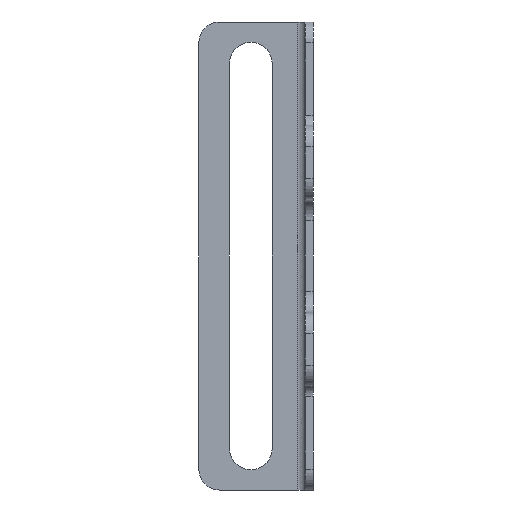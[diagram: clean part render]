
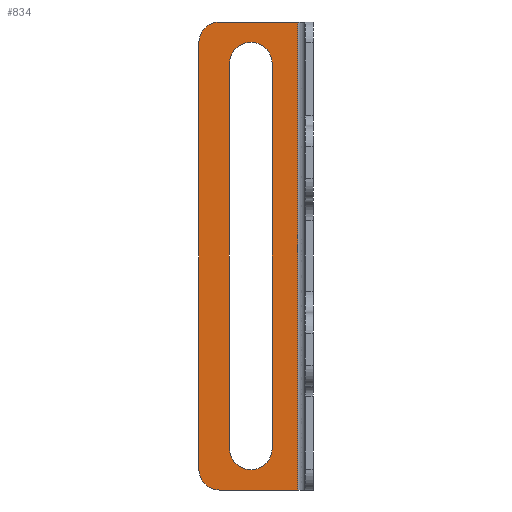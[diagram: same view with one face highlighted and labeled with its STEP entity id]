
A CAD part, left-side view. The second image highlights one B-rep face of the part: STEP entity #834.
In plain terms, the highlighted planar face has unit normal (-1, 0, 0).
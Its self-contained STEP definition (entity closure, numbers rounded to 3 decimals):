
#3 = VECTOR ( 'NONE', #429, 1000. ) ;
#37 = CARTESIAN_POINT ( 'NONE',  ( 23.5, 3., 90. ) ) ;
#42 = EDGE_CURVE ( 'NONE', #853, #917, #870, .T. ) ;
#43 = ORIENTED_EDGE ( 'NONE', *, *, #1225, .F. ) ;
#67 = VERTEX_POINT ( 'NONE', #483 ) ;
#109 = FACE_BOUND ( 'NONE', #596, .T. ) ;
#111 = CARTESIAN_POINT ( 'NONE',  ( 23.5, 12., 3.9 ) ) ;
#122 = DIRECTION ( 'NONE',  ( 1., 0., 0. ) ) ;
#127 = CARTESIAN_POINT ( 'NONE',  ( 23.5, 22., 86. ) ) ;
#130 = DIRECTION ( 'NONE',  ( -1., 0., 0. ) ) ;
#183 = EDGE_CURVE ( 'NONE', #917, #1022, #489, .T. ) ;
#199 = AXIS2_PLACEMENT_3D ( 'NONE', #1042, #411, #1154 ) ;
#232 = CARTESIAN_POINT ( 'NONE',  ( 23.5, 16.1, 82. ) ) ;
#277 = CARTESIAN_POINT ( 'NONE',  ( 23.5, 12., 8. ) ) ;
#280 = DIRECTION ( 'NONE',  ( 0., 0., -1. ) ) ;
#285 = ORIENTED_EDGE ( 'NONE', *, *, #855, .T. ) ;
#294 = ORIENTED_EDGE ( 'NONE', *, *, #671, .F. ) ;
#330 = EDGE_CURVE ( 'NONE', #1195, #853, #578, .T. ) ;
#331 = CARTESIAN_POINT ( 'NONE',  ( 23.5, 12., 8. ) ) ;
#339 = EDGE_CURVE ( 'NONE', #67, #1163, #866, .T. ) ;
#342 = VECTOR ( 'NONE', #1006, 1000. ) ;
#352 = VERTEX_POINT ( 'NONE', #371 ) ;
#360 = DIRECTION ( 'NONE',  ( 0., -1., 0. ) ) ;
#371 = CARTESIAN_POINT ( 'NONE',  ( 23.5, 18., 90. ) ) ;
#376 = DIRECTION ( 'NONE',  ( 0., 0., -1. ) ) ;
#411 = DIRECTION ( 'NONE',  ( -1., 0., 0. ) ) ;
#428 = ORIENTED_EDGE ( 'NONE', *, *, #183, .F. ) ;
#429 = DIRECTION ( 'NONE',  ( 0., 0., -1. ) ) ;
#440 = EDGE_CURVE ( 'NONE', #920, #1167, #447, .T. ) ;
#447 = LINE ( 'NONE', #1128, #1257 ) ;
#462 = VECTOR ( 'NONE', #280, 1000. ) ;
#479 = DIRECTION ( 'NONE',  ( 0., -1., 0. ) ) ;
#483 = CARTESIAN_POINT ( 'NONE',  ( 23.5, 18., 0. ) ) ;
#489 = LINE ( 'NONE', #1336, #462 ) ;
#517 = DIRECTION ( 'NONE',  ( -1., 0., 0. ) ) ;
#546 = ORIENTED_EDGE ( 'NONE', *, *, #440, .T. ) ;
#576 = CARTESIAN_POINT ( 'NONE',  ( 23.5, 7.9, 8. ) ) ;
#578 = LINE ( 'NONE', #576, #342 ) ;
#591 = LINE ( 'NONE', #37, #624 ) ;
#596 = EDGE_LOOP ( 'NONE', ( #428, #842, #874, #294, #43 ) ) ;
#600 = VERTEX_POINT ( 'NONE', #943 ) ;
#606 = AXIS2_PLACEMENT_3D ( 'NONE', #331, #1062, #1170 ) ;
#624 = VECTOR ( 'NONE', #360, 1000. ) ;
#628 = ORIENTED_EDGE ( 'NONE', *, *, #821, .F. ) ;
#661 = AXIS2_PLACEMENT_3D ( 'NONE', #754, #130, #868 ) ;
#671 = EDGE_CURVE ( 'NONE', #775, #1195, #1068, .T. ) ;
#674 = CARTESIAN_POINT ( 'NONE',  ( 23.5, 22., 4. ) ) ;
#678 = CARTESIAN_POINT ( 'NONE',  ( 23.5, 7.9, 8. ) ) ;
#724 = AXIS2_PLACEMENT_3D ( 'NONE', #1283, #122, #862 ) ;
#741 = CARTESIAN_POINT ( 'NONE',  ( 23.5, 3., 90. ) ) ;
#744 = PLANE ( 'NONE',  #724 ) ;
#754 = CARTESIAN_POINT ( 'NONE',  ( 23.5, 18., 86. ) ) ;
#775 = VERTEX_POINT ( 'NONE', #111 ) ;
#777 = CIRCLE ( 'NONE', #661, 4. ) ;
#809 = FACE_OUTER_BOUND ( 'NONE', #844, .T. ) ;
#821 = EDGE_CURVE ( 'NONE', #600, #1163, #1130, .T. ) ;
#834 = ADVANCED_FACE ( 'NONE', ( #109, #809 ), #744, .F. ) ;
#842 = ORIENTED_EDGE ( 'NONE', *, *, #42, .F. ) ;
#844 = EDGE_LOOP ( 'NONE', ( #1241, #285, #546, #1120, #900, #628 ) ) ;
#851 = AXIS2_PLACEMENT_3D ( 'NONE', #277, #1009, #376 ) ;
#853 = VERTEX_POINT ( 'NONE', #969 ) ;
#855 = EDGE_CURVE ( 'NONE', #352, #920, #777, .T. ) ;
#862 = DIRECTION ( 'NONE',  ( 0., 0., -1. ) ) ;
#866 = LINE ( 'NONE', #999, #899 ) ;
#868 = DIRECTION ( 'NONE',  ( 0., 0., -1. ) ) ;
#870 = CIRCLE ( 'NONE', #1231, 4.1 ) ;
#874 = ORIENTED_EDGE ( 'NONE', *, *, #330, .F. ) ;
#899 = VECTOR ( 'NONE', #479, 1000. ) ;
#900 = ORIENTED_EDGE ( 'NONE', *, *, #339, .T. ) ;
#917 = VERTEX_POINT ( 'NONE', #232 ) ;
#920 = VERTEX_POINT ( 'NONE', #127 ) ;
#943 = CARTESIAN_POINT ( 'NONE',  ( 23.5, 3., 90. ) ) ;
#969 = CARTESIAN_POINT ( 'NONE',  ( 23.5, 7.9, 82. ) ) ;
#986 = CARTESIAN_POINT ( 'NONE',  ( 23.5, 16.1, 8. ) ) ;
#999 = CARTESIAN_POINT ( 'NONE',  ( 23.5, 3., 0. ) ) ;
#1006 = DIRECTION ( 'NONE',  ( 0., 0., 1. ) ) ;
#1009 = DIRECTION ( 'NONE',  ( -1., 0., 0. ) ) ;
#1022 = VERTEX_POINT ( 'NONE', #986 ) ;
#1023 = DIRECTION ( 'NONE',  ( 0., 0., -1. ) ) ;
#1027 = EDGE_CURVE ( 'NONE', #352, #600, #591, .T. ) ;
#1042 = CARTESIAN_POINT ( 'NONE',  ( 23.5, 18., 4. ) ) ;
#1062 = DIRECTION ( 'NONE',  ( -1., 0., 0. ) ) ;
#1068 = CIRCLE ( 'NONE', #606, 4.1 ) ;
#1120 = ORIENTED_EDGE ( 'NONE', *, *, #1281, .T. ) ;
#1128 = CARTESIAN_POINT ( 'NONE',  ( 23.5, 22., 90. ) ) ;
#1130 = LINE ( 'NONE', #741, #3 ) ;
#1152 = CARTESIAN_POINT ( 'NONE',  ( 23.5, 12., 82. ) ) ;
#1154 = DIRECTION ( 'NONE',  ( 0., 0., -1. ) ) ;
#1163 = VERTEX_POINT ( 'NONE', #1313 ) ;
#1167 = VERTEX_POINT ( 'NONE', #674 ) ;
#1170 = DIRECTION ( 'NONE',  ( 0., 0., -1. ) ) ;
#1195 = VERTEX_POINT ( 'NONE', #678 ) ;
#1225 = EDGE_CURVE ( 'NONE', #1022, #775, #1351, .T. ) ;
#1231 = AXIS2_PLACEMENT_3D ( 'NONE', #1152, #517, #1261 ) ;
#1241 = ORIENTED_EDGE ( 'NONE', *, *, #1027, .F. ) ;
#1257 = VECTOR ( 'NONE', #1023, 1000. ) ;
#1261 = DIRECTION ( 'NONE',  ( 0., 0., -1. ) ) ;
#1281 = EDGE_CURVE ( 'NONE', #1167, #67, #1285, .T. ) ;
#1283 = CARTESIAN_POINT ( 'NONE',  ( 23.5, 3., 90. ) ) ;
#1285 = CIRCLE ( 'NONE', #199, 4. ) ;
#1313 = CARTESIAN_POINT ( 'NONE',  ( 23.5, 3., 0. ) ) ;
#1336 = CARTESIAN_POINT ( 'NONE',  ( 23.5, 16.1, 82. ) ) ;
#1351 = CIRCLE ( 'NONE', #851, 4.1 ) ;
